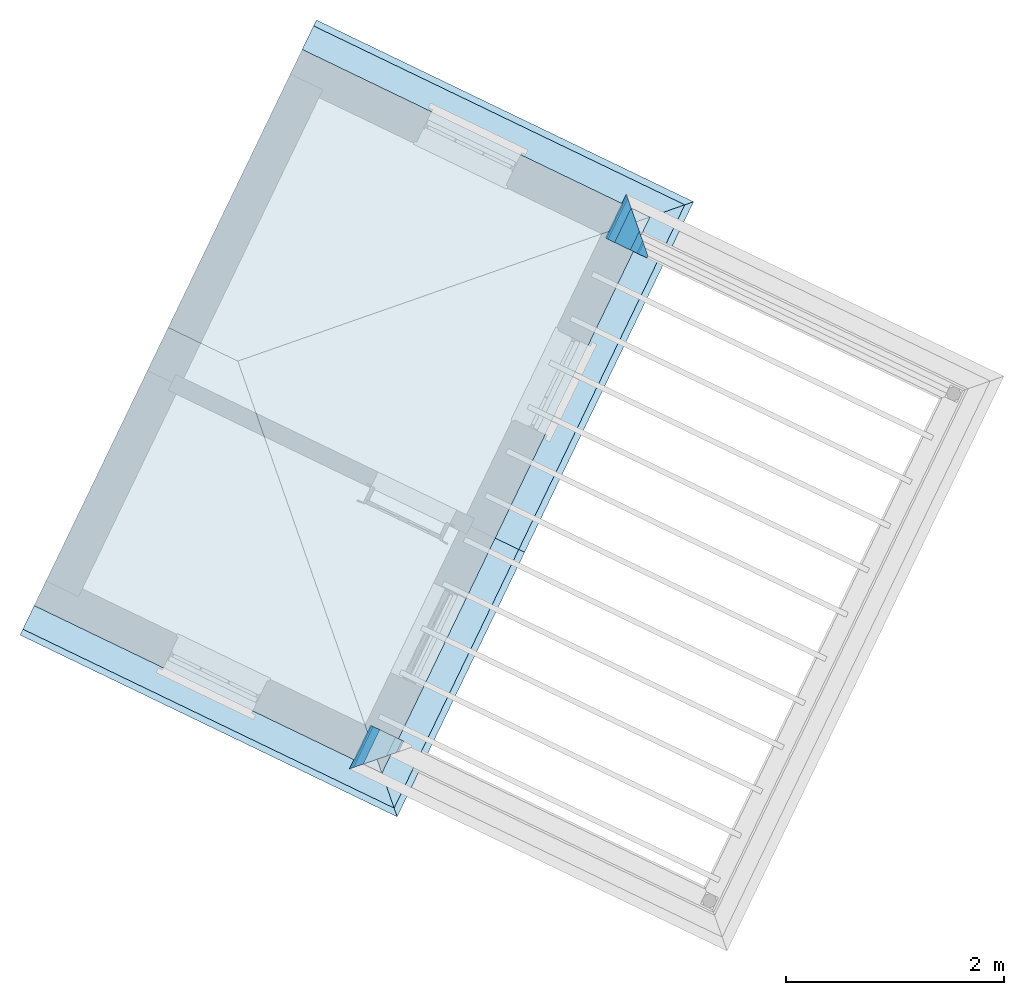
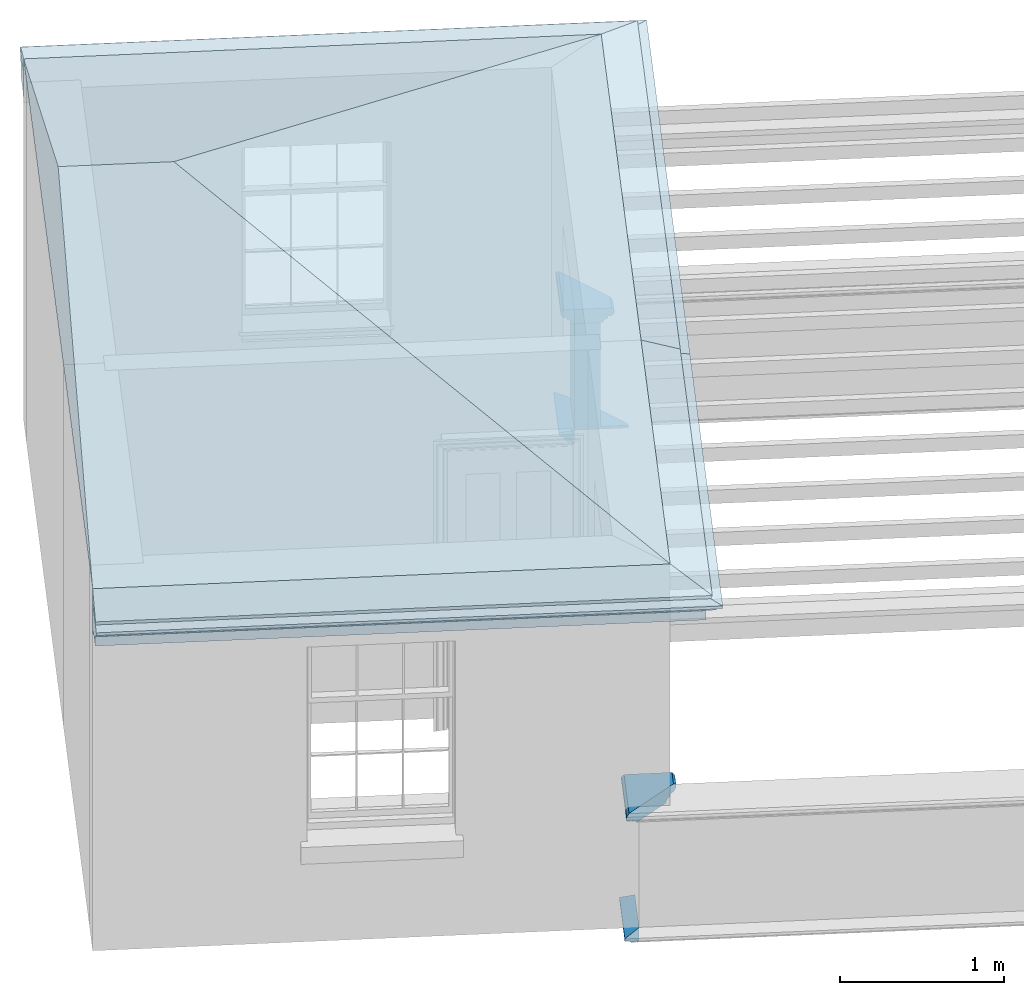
# One storey, part 4 of 4: 9 roofs, 5 walls.
"""IFC4 building model written with IfcOpenShell, lengths in metres."""

from ifc_helpers import new_model, si_unit, frame, origin, origin_with_axes, place, context, subcontext, project, spatial, polyline, outline, extrude, clip, halfspace, faceted_brep, material_profile, profile_set, profile_usage, type_object, element, save


model = new_model("IFC4")

# Units and contexts
model_context = context("Model", 3, world=origin_with_axes())
body_context = subcontext(model_context, "Body", "Model", "MODEL_VIEW")
ifc_project = project(units=[si_unit("PLANEANGLEUNIT", "RADIAN"), si_unit("MASSUNIT", "GRAM", prefix="KILO"), si_unit("FORCEUNIT", "NEWTON", prefix="KILO"), si_unit("LENGTHUNIT", "METRE"), si_unit("AREAUNIT", "SQUARE_METRE"), si_unit("VOLUMEUNIT", "CUBIC_METRE")], contexts=[model_context, model_context])

# Sites, building, storey
site_1_placement = place(None, origin_with_axes())
site_1 = spatial("IfcSite", under=ifc_project, at=site_1_placement, Name="Tamar")
site_2_placement = place(site_1_placement, origin_with_axes())
site_2 = spatial("IfcSite", under=site_1, at=site_2_placement, Name="Site plot-2", CompositionType="ELEMENT")
building_placement = place(None, origin_with_axes())
building = spatial("IfcBuilding", under=site_2, at=building_placement, Name="Building plot-2", CompositionType="ELEMENT")
storey_placement = place(None, frame((0.0, 0.0, 31.55), z_axis=(0.0, 0.0, 1.0), x_axis=(1.0, 0.0, 0.0)))
storey = spatial("IfcBuildingStorey", under=building, at=storey_placement, Name="plot-2 2", CompositionType="ELEMENT", Elevation=31.55)

# Walls
ifc_material_profile_1 = material_profile(None, outline(polyline([(0.25, 0.0), (0.25, 0.795), (0.09, 0.795), (0.09, 0.02), (-0.08, 0.02), (-0.08, 0.0), (0.25, 0.0)])))
ifc_profile_set_1 = profile_set([ifc_material_profile_1])
ifc_profile_usage_1 = profile_usage(ifc_profile_set_1)
wall_type_1 = type_object("IfcWallType", Name="parapet_0", PredefinedType="PARAPET", material=ifc_profile_set_1)
wall_1_placement = place(storey_placement, frame((232.494669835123, 293.51139910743, 0.0), z_axis=(0.434117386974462, 0.90085631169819, 0.0), x_axis=(-0.90085631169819, 0.434117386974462, 0.0)))
element("IfcWall", 1, at=wall_1_placement, inside=storey, type_object=wall_type_1, material=ifc_profile_usage_1, Name="parapet_0", context=body_context, shape_type="Clipping", body=[
    clip(clip(extrude(outline(polyline([(0.25, 0.0), (0.25, 0.795), (0.09, 0.795), (0.09, 0.02), (-0.08, 0.02), (-0.08, 0.0), (0.25, 0.0)])), origin_with_axes(), (0.0, 0.0, 1.0), 2.09999999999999), halfspace(frame((0.0, 0.0, 1.09999999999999), z_axis=(0.707106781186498, 0.0, -0.707106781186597), x_axis=(0.0, 1.0, 0.0)), True)), halfspace(frame((0.0, 0.0, 1.0), z_axis=(-2.49302280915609e-14, 0.0, -1.0), x_axis=(0.0, 1.0, 0.0)), False)),
])
ifc_material_profile_2 = material_profile(None, outline(polyline([(0.265, 0.795), (0.268, 0.807), (0.274, 0.816), (0.283, 0.822), (0.295, 0.825), (0.295, 0.84), (0.305, 0.84), (0.317, 0.842), (0.326, 0.849), (0.333, 0.858), (0.335, 0.87), (0.333, 0.882), (0.326, 0.891), (0.317, 0.898), (0.305, 0.9), (0.035, 0.9), (0.023, 0.898), (0.014, 0.891), (0.007, 0.882), (0.005, 0.87), (0.007, 0.858), (0.014, 0.849), (0.023, 0.842), (0.035, 0.84), (0.045, 0.84), (0.045, 0.825), (0.057, 0.822), (0.066, 0.816), (0.072, 0.807), (0.075, 0.795), (0.265, 0.795)])))
ifc_profile_set_2 = profile_set([ifc_material_profile_2])
ifc_profile_usage_2 = profile_usage(ifc_profile_set_2)
wall_type_2 = type_object("IfcWallType", Name="parapet_1", PredefinedType="PARAPET", material=ifc_profile_set_2)
wall_2_placement = place(storey_placement, frame((230.298870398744, 288.954797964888, 0.0), z_axis=(0.434117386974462, 0.90085631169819, 0.0), x_axis=(-0.90085631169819, 0.434117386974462, 0.0)))
element("IfcWall", 2, at=wall_2_placement, inside=storey, type_object=wall_type_2, material=ifc_profile_usage_2, Name="parapet_1", context=body_context, shape_type="Clipping", body=[
    clip(clip(extrude(outline(polyline([(0.265, 0.795), (0.268, 0.807), (0.274, 0.816), (0.283, 0.822), (0.295, 0.825), (0.295, 0.84), (0.305, 0.84), (0.317, 0.842), (0.326, 0.849), (0.333, 0.858), (0.335, 0.87), (0.333, 0.882), (0.326, 0.891), (0.317, 0.898), (0.305, 0.9), (0.035, 0.9), (0.023, 0.898), (0.014, 0.891), (0.007, 0.882), (0.005, 0.87), (0.007, 0.858), (0.014, 0.849), (0.023, 0.842), (0.035, 0.84), (0.045, 0.84), (0.045, 0.825), (0.057, 0.822), (0.066, 0.816), (0.072, 0.807), (0.075, 0.795), (0.265, 0.795)])), origin_with_axes(), (0.0, 0.0, 1.0), 2.09999999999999), halfspace(frame((0.0, 0.0, 1.09999999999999), z_axis=(-2.49302280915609e-14, 0.0, -1.0), x_axis=(0.0, 1.0, 0.0)), True)), halfspace(frame((0.0, 0.0, 1.0), z_axis=(-0.707106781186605, 0.0, -0.70710678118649), x_axis=(0.0, 1.0, 0.0)), False)),
])
ifc_profile_usage_3 = profile_usage(ifc_profile_set_2)
wall_3_placement = place(storey_placement, frame((232.494669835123, 293.51139910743, 0.0), z_axis=(0.434117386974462, 0.90085631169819, 0.0), x_axis=(-0.90085631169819, 0.434117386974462, 0.0)))
element("IfcWall", 3, at=wall_3_placement, inside=storey, type_object=wall_type_2, material=ifc_profile_usage_3, Name="parapet_1", context=body_context, shape_type="Clipping", body=[
    clip(clip(extrude(outline(polyline([(0.265, 0.795), (0.268, 0.807), (0.274, 0.816), (0.283, 0.822), (0.295, 0.825), (0.295, 0.84), (0.305, 0.84), (0.317, 0.842), (0.326, 0.849), (0.333, 0.858), (0.335, 0.87), (0.333, 0.882), (0.326, 0.891), (0.317, 0.898), (0.305, 0.9), (0.035, 0.9), (0.023, 0.898), (0.014, 0.891), (0.007, 0.882), (0.005, 0.87), (0.007, 0.858), (0.014, 0.849), (0.023, 0.842), (0.035, 0.84), (0.045, 0.84), (0.045, 0.825), (0.057, 0.822), (0.066, 0.816), (0.072, 0.807), (0.075, 0.795), (0.265, 0.795)])), origin_with_axes(), (0.0, 0.0, 1.0), 2.09999999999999), halfspace(frame((0.0, 0.0, 1.09999999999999), z_axis=(0.707106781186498, 0.0, -0.707106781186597), x_axis=(0.0, 1.0, 0.0)), True)), halfspace(frame((0.0, 0.0, 1.0), z_axis=(-2.49302280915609e-14, 0.0, -1.0), x_axis=(0.0, 1.0, 0.0)), False)),
])
ifc_material_profile_3 = material_profile(None, outline(polyline([(0.25, -0.1), (0.265, -0.1), (0.265, -0.085), (0.278, -0.084), (0.289, -0.081), (0.301, -0.074), (0.309, -0.065), (0.315, -0.055), (0.324, -0.044), (0.334, -0.038), (0.345, -0.035), (0.345, -0.015), (0.25, 0.0), (0.25, -0.1)])))
ifc_profile_set_3 = profile_set([ifc_material_profile_3])
ifc_profile_usage_4 = profile_usage(ifc_profile_set_3)
wall_type_3 = type_object("IfcWallType", Name="parapet_2", PredefinedType="PARAPET", material=ifc_profile_set_3)
wall_4_placement = place(storey_placement, frame((230.298870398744, 288.954797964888, 0.0), z_axis=(0.434117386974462, 0.90085631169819, 0.0), x_axis=(-0.90085631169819, 0.434117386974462, 0.0)))
element("IfcWall", 4, at=wall_4_placement, inside=storey, type_object=wall_type_3, material=ifc_profile_usage_4, Name="parapet_2", context=body_context, shape_type="Clipping", body=[
    clip(clip(extrude(outline(polyline([(0.25, -0.1), (0.265, -0.1), (0.265, -0.085), (0.278, -0.084), (0.289, -0.081), (0.301, -0.074), (0.309, -0.065), (0.315, -0.055), (0.324, -0.044), (0.334, -0.038), (0.345, -0.035), (0.345, -0.015), (0.25, 0.0), (0.25, -0.1)])), origin_with_axes(), (0.0, 0.0, 1.0), 2.09999999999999), halfspace(frame((0.0, 0.0, 1.09999999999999), z_axis=(-2.49302280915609e-14, 0.0, -1.0), x_axis=(0.0, 1.0, 0.0)), True)), halfspace(frame((0.0, 0.0, 1.0), z_axis=(-0.707106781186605, 0.0, -0.70710678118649), x_axis=(0.0, 1.0, 0.0)), False)),
])
ifc_profile_usage_5 = profile_usage(ifc_profile_set_3)
wall_5_placement = place(storey_placement, frame((232.494669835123, 293.51139910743, 0.0), z_axis=(0.434117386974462, 0.90085631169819, 0.0), x_axis=(-0.90085631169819, 0.434117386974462, 0.0)))
element("IfcWall", 5, at=wall_5_placement, inside=storey, type_object=wall_type_3, material=ifc_profile_usage_5, Name="parapet_2", context=body_context, shape_type="Clipping", body=[
    clip(clip(extrude(outline(polyline([(0.25, -0.1), (0.265, -0.1), (0.265, -0.085), (0.278, -0.084), (0.289, -0.081), (0.301, -0.074), (0.309, -0.065), (0.315, -0.055), (0.324, -0.044), (0.334, -0.038), (0.345, -0.035), (0.345, -0.015), (0.25, 0.0), (0.25, -0.1)])), origin_with_axes(), (0.0, 0.0, 1.0), 2.09999999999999), halfspace(frame((0.0, 0.0, 1.09999999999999), z_axis=(0.707106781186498, 0.0, -0.707106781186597), x_axis=(0.0, 1.0, 0.0)), True)), halfspace(frame((0.0, 0.0, 1.0), z_axis=(-2.49302280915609e-14, 0.0, -1.0), x_axis=(0.0, 1.0, 0.0)), False)),
])

# Roofs
ifc_material_profile_4 = material_profile(None, outline(polyline([(0.25, -0.11), (0.25, -0.33), (0.265, -0.33), (0.268, -0.318), (0.274, -0.309), (0.283, -0.303), (0.295, -0.3), (0.295, -0.285), (0.455, -0.285), (0.455, -0.205), (0.47, -0.205), (0.47, -0.19), (0.483, -0.189), (0.494, -0.186), (0.506, -0.179), (0.514, -0.17), (0.52, -0.16), (0.529, -0.149), (0.539, -0.143), (0.55, -0.14), (0.55, -0.12), (0.48, -0.11), (0.25, -0.11)])))
ifc_profile_set_4 = profile_set([ifc_material_profile_4])
ifc_profile_usage_6 = profile_usage(ifc_profile_set_4)
roof_type_1 = type_object("IfcRoofType", Name="eaves_0", PredefinedType="FREEFORM", material=ifc_profile_set_4)
roof_1_placement = place(storey_placement, frame((231.35457864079, 289.556113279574, 2.7), z_axis=(-0.900856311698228, 0.434117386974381, 0.0), x_axis=(-0.434117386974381, -0.900856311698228, 0.0)))
element("IfcRoof", 6, at=roof_1_placement, inside=storey, type_object=roof_type_1, material=ifc_profile_usage_6, Name="eaves_0", context=body_context, shape_type="Clipping", body=[
    clip(clip(extrude(outline(polyline([(0.25, -0.11), (0.25, -0.33), (0.265, -0.33), (0.268, -0.318), (0.274, -0.309), (0.283, -0.303), (0.295, -0.3), (0.295, -0.285), (0.455, -0.285), (0.455, -0.205), (0.47, -0.205), (0.47, -0.19), (0.483, -0.189), (0.494, -0.186), (0.506, -0.179), (0.514, -0.17), (0.52, -0.16), (0.529, -0.149), (0.539, -0.143), (0.55, -0.14), (0.55, -0.12), (0.48, -0.11), (0.25, -0.11)])), origin_with_axes(), (0.0, 0.0, 1.0), 5.2876543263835), halfspace(frame((0.0, 0.0, 4.2876543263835), z_axis=(-1.1607551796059e-14, 0.0, -1.0), x_axis=(0.0, 1.0, 0.0)), True)), halfspace(frame((0.0, 0.0, 1.0), z_axis=(-0.7071067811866, 0.0, -0.707106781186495), x_axis=(0.0, 1.0, 0.0)), False)),
])
ifc_profile_usage_7 = profile_usage(ifc_profile_set_4)
roof_2_placement = place(storey_placement, frame((231.817332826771, 292.819919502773, 2.7), z_axis=(-0.434117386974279, -0.900856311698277, 0.0), x_axis=(0.900856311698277, -0.434117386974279, 0.0)))
element("IfcRoof", 7, at=roof_2_placement, inside=storey, type_object=roof_type_1, material=ifc_profile_usage_7, Name="eaves_0", context=body_context, shape_type="Clipping", body=[
    clip(clip(extrude(outline(polyline([(0.25, -0.11), (0.25, -0.33), (0.265, -0.33), (0.268, -0.318), (0.274, -0.309), (0.283, -0.303), (0.295, -0.3), (0.295, -0.285), (0.455, -0.285), (0.455, -0.205), (0.47, -0.205), (0.47, -0.19), (0.483, -0.189), (0.494, -0.186), (0.506, -0.179), (0.514, -0.17), (0.52, -0.16), (0.529, -0.149), (0.539, -0.143), (0.55, -0.14), (0.55, -0.12), (0.48, -0.11), (0.25, -0.11)])), origin_with_axes(), (0.0, 0.0, 1.0), 4.14111007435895), halfspace(frame((0.0, 0.0, 3.14111007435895), z_axis=(0.707106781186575, 0.0, -0.70710678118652), x_axis=(0.0, 1.0, 0.0)), True)), halfspace(frame((0.0, 0.0, 1.0), z_axis=(-1.29398194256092e-14, 0.0, -1.0), x_axis=(0.0, 1.0, 0.0)), False)),
])
ifc_profile_usage_8 = profile_usage(ifc_profile_set_4)
roof_3_placement = place(storey_placement, frame((233.127050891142, 295.537773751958, 2.7), z_axis=(-0.434117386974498, -0.900856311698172, 0.0), x_axis=(0.900856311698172, -0.434117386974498, 0.0)))
element("IfcRoof", 8, at=roof_3_placement, inside=storey, type_object=roof_type_1, material=ifc_profile_usage_8, Name="eaves_0", context=body_context, shape_type="Clipping", body=[
    clip(clip(extrude(outline(polyline([(0.25, -0.11), (0.25, -0.33), (0.265, -0.33), (0.268, -0.318), (0.274, -0.309), (0.283, -0.303), (0.295, -0.3), (0.295, -0.285), (0.455, -0.285), (0.455, -0.205), (0.47, -0.205), (0.47, -0.19), (0.483, -0.189), (0.494, -0.186), (0.506, -0.179), (0.514, -0.17), (0.52, -0.16), (0.529, -0.149), (0.539, -0.143), (0.55, -0.14), (0.55, -0.12), (0.48, -0.11), (0.25, -0.11)])), origin_with_axes(), (0.0, 0.0, 1.0), 5.01696753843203), halfspace(frame((0.0, 0.0, 4.01696753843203), z_axis=(-2.55856617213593e-13, 0.0, -1.0), x_axis=(0.0, 1.0, 0.0)), True)), halfspace(frame((0.0, 0.0, 1.0), z_axis=(-0.707106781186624, 0.0, -0.707106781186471), x_axis=(0.0, 1.0, 0.0)), False)),
])
ifc_profile_usage_9 = profile_usage(ifc_profile_set_4)
roof_4_placement = place(storey_placement, frame((228.830373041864, 296.498262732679, 2.7), z_axis=(0.900856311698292, -0.434117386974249, 0.0), x_axis=(0.434117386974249, 0.900856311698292, 0.0)))
element("IfcRoof", 9, at=roof_4_placement, inside=storey, type_object=roof_type_1, material=ifc_profile_usage_9, Name="eaves_0", context=body_context, shape_type="Clipping", body=[
    clip(clip(extrude(outline(polyline([(0.25, -0.11), (0.25, -0.33), (0.265, -0.33), (0.268, -0.318), (0.274, -0.309), (0.283, -0.303), (0.295, -0.3), (0.295, -0.285), (0.455, -0.285), (0.455, -0.205), (0.47, -0.205), (0.47, -0.19), (0.483, -0.189), (0.494, -0.186), (0.506, -0.179), (0.514, -0.17), (0.52, -0.16), (0.529, -0.149), (0.539, -0.143), (0.55, -0.14), (0.55, -0.12), (0.48, -0.11), (0.25, -0.11)])), origin_with_axes(), (0.0, 0.0, 1.0), 5.28765432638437), halfspace(frame((0.0, 0.0, 4.28765432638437), z_axis=(0.707106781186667, 0.0, -0.707106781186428), x_axis=(0.0, 1.0, 0.0)), True)), halfspace(frame((0.0, 0.0, 1.0), z_axis=(-1.78248007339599e-14, 0.0, -1.0), x_axis=(0.0, 1.0, 0.0)), False)),
])
ifc_material_profile_5 = material_profile(None, outline(polyline([(0.25, -0.11), (0.48, -0.11), (0.49, -0.08), (0.25, 0.0), (0.25, -0.11)])))
ifc_profile_set_5 = profile_set([ifc_material_profile_5])
ifc_profile_usage_10 = profile_usage(ifc_profile_set_5)
roof_type_2 = type_object("IfcRoofType", Name="eaves_1", PredefinedType="FREEFORM", material=ifc_profile_set_5)
roof_5_placement = place(storey_placement, frame((231.35457864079, 289.556113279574, 2.7), z_axis=(-0.900856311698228, 0.434117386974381, 0.0), x_axis=(-0.434117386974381, -0.900856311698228, 0.0)))
element("IfcRoof", 10, at=roof_5_placement, inside=storey, type_object=roof_type_2, material=ifc_profile_usage_10, Name="eaves_1", context=body_context, shape_type="Clipping", body=[
    clip(clip(extrude(outline(polyline([(0.25, -0.11), (0.48, -0.11), (0.49, -0.08), (0.25, 0.0), (0.25, -0.11)])), origin_with_axes(), (0.0, 0.0, 1.0), 5.2876543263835), halfspace(frame((0.0, 0.0, 4.2876543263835), z_axis=(-1.1607551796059e-14, 0.0, -1.0), x_axis=(0.0, 1.0, 0.0)), True)), halfspace(frame((0.0, 0.0, 1.0), z_axis=(-0.7071067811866, 0.0, -0.707106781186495), x_axis=(0.0, 1.0, 0.0)), False)),
])
ifc_profile_usage_11 = profile_usage(ifc_profile_set_5)
roof_6_placement = place(storey_placement, frame((231.817332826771, 292.819919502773, 2.7), z_axis=(-0.434117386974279, -0.900856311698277, 0.0), x_axis=(0.900856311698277, -0.434117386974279, 0.0)))
element("IfcRoof", 11, at=roof_6_placement, inside=storey, type_object=roof_type_2, material=ifc_profile_usage_11, Name="eaves_1", context=body_context, shape_type="Clipping", body=[
    clip(clip(extrude(outline(polyline([(0.25, -0.11), (0.48, -0.11), (0.49, -0.08), (0.25, 0.0), (0.25, -0.11)])), origin_with_axes(), (0.0, 0.0, 1.0), 4.14111007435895), halfspace(frame((0.0, 0.0, 3.14111007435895), z_axis=(0.707106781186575, 0.0, -0.70710678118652), x_axis=(0.0, 1.0, 0.0)), True)), halfspace(frame((0.0, 0.0, 1.0), z_axis=(-1.29398194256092e-14, 0.0, -1.0), x_axis=(0.0, 1.0, 0.0)), False)),
])
ifc_profile_usage_12 = profile_usage(ifc_profile_set_5)
roof_7_placement = place(storey_placement, frame((233.127050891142, 295.537773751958, 2.7), z_axis=(-0.434117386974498, -0.900856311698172, 0.0), x_axis=(0.900856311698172, -0.434117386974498, 0.0)))
element("IfcRoof", 12, at=roof_7_placement, inside=storey, type_object=roof_type_2, material=ifc_profile_usage_12, Name="eaves_1", context=body_context, shape_type="Clipping", body=[
    clip(clip(extrude(outline(polyline([(0.25, -0.11), (0.48, -0.11), (0.49, -0.08), (0.25, 0.0), (0.25, -0.11)])), origin_with_axes(), (0.0, 0.0, 1.0), 5.01696753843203), halfspace(frame((0.0, 0.0, 4.01696753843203), z_axis=(-2.55856617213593e-13, 0.0, -1.0), x_axis=(0.0, 1.0, 0.0)), True)), halfspace(frame((0.0, 0.0, 1.0), z_axis=(-0.707106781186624, 0.0, -0.707106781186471), x_axis=(0.0, 1.0, 0.0)), False)),
])
ifc_profile_usage_13 = profile_usage(ifc_profile_set_5)
roof_8_placement = place(storey_placement, frame((228.830373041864, 296.498262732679, 2.7), z_axis=(0.900856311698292, -0.434117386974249, 0.0), x_axis=(0.434117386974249, 0.900856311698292, 0.0)))
element("IfcRoof", 13, at=roof_8_placement, inside=storey, type_object=roof_type_2, material=ifc_profile_usage_13, Name="eaves_1", context=body_context, shape_type="Clipping", body=[
    clip(clip(extrude(outline(polyline([(0.25, -0.11), (0.48, -0.11), (0.49, -0.08), (0.25, 0.0), (0.25, -0.11)])), origin_with_axes(), (0.0, 0.0, 1.0), 5.28765432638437), halfspace(frame((0.0, 0.0, 4.28765432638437), z_axis=(0.707106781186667, 0.0, -0.707106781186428), x_axis=(0.0, 1.0, 0.0)), True)), halfspace(frame((0.0, 0.0, 1.0), z_axis=(-1.78248007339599e-14, 0.0, -1.0), x_axis=(0.0, 1.0, 0.0)), False)),
])
roof_9_placement = place(building_placement, origin())
element("IfcRoof", 14, at=roof_9_placement, inside=storey, Name="Roof", PredefinedType="FREEFORM", context=body_context, shape_type="Brep", body=[
    faceted_brep([(233.026677, 294.753602, 34.25), (229.839759, 296.289359, 34.25), (228.611624, 293.740802, 35.421826), (229.249985, 293.43318, 35.421826), (227.383489, 291.192244, 34.25), (230.570407, 289.656487, 34.25)], [[[0, 1, 2, 3]], [[4, 5, 3, 2]], [[5, 4, 1, 0]], [[5, 0, 3]], [[1, 4, 2]]]),
])

save(model, "model.ifc")
